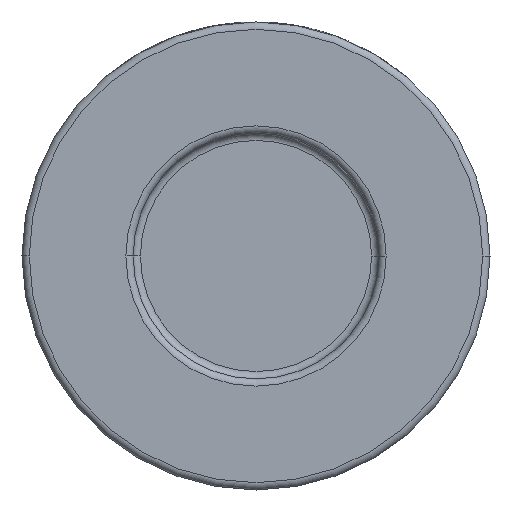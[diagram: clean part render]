
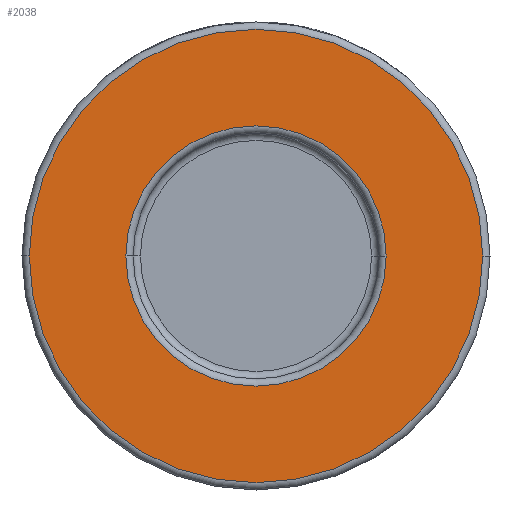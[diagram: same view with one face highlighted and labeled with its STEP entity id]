
A CAD part, front view. The second image highlights one B-rep face of the part: STEP entity #2038.
In plain terms, the highlighted planar face has unit normal (0, -1, 0).
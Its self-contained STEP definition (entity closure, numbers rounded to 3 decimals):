
#95 = ORIENTED_EDGE ( 'NONE', *, *, #4094, .T. ) ;
#152 = FACE_BOUND ( 'NONE', #2081, .T. ) ;
#167 = AXIS2_PLACEMENT_3D ( 'NONE', #3739, #580, #4096 ) ;
#219 = CARTESIAN_POINT ( 'NONE',  ( 32., -22., 0. ) ) ;
#566 = CARTESIAN_POINT ( 'NONE',  ( 0., -22., 0. ) ) ;
#580 = DIRECTION ( 'NONE',  ( 0., 1., 0. ) ) ;
#693 = ORIENTED_EDGE ( 'NONE', *, *, #3603, .T. ) ;
#827 = CIRCLE ( 'NONE', #906, 31. ) ;
#906 = AXIS2_PLACEMENT_3D ( 'NONE', #566, #3745, #1288 ) ;
#1288 = DIRECTION ( 'NONE',  ( 1., 0., 0. ) ) ;
#1324 = CARTESIAN_POINT ( 'NONE',  ( 31., -22., 0. ) ) ;
#1468 = EDGE_CURVE ( 'NONE', #3640, #3829, #3987, .T. ) ;
#1483 = AXIS2_PLACEMENT_3D ( 'NONE', #4089, #3662, #2262 ) ;
#1563 = AXIS2_PLACEMENT_3D ( 'NONE', #2729, #4139, #2110 ) ;
#1751 = VERTEX_POINT ( 'NONE', #3085 ) ;
#2022 = DIRECTION ( 'NONE',  ( 0., -1., 0. ) ) ;
#2038 = ADVANCED_FACE ( 'NONE', ( #152, #3008 ), #3031, .T. ) ;
#2081 = EDGE_LOOP ( 'NONE', ( #693, #2176 ) ) ;
#2110 = DIRECTION ( 'NONE',  ( 1., 0., 0. ) ) ;
#2176 = ORIENTED_EDGE ( 'NONE', *, *, #3439, .T. ) ;
#2262 = DIRECTION ( 'NONE',  ( 1., 0., 0. ) ) ;
#2453 = CARTESIAN_POINT ( 'NONE',  ( 17.8, -22., 0. ) ) ;
#2700 = CARTESIAN_POINT ( 'NONE',  ( -31., -22., 0. ) ) ;
#2729 = CARTESIAN_POINT ( 'NONE',  ( 0., -22., 0. ) ) ;
#2951 = AXIS2_PLACEMENT_3D ( 'NONE', #219, #2022, #4026 ) ;
#2959 = CIRCLE ( 'NONE', #167, 17.8 ) ;
#2965 = CIRCLE ( 'NONE', #1563, 17.8 ) ;
#3008 = FACE_OUTER_BOUND ( 'NONE', #3990, .T. ) ;
#3031 = PLANE ( 'NONE',  #2951 ) ;
#3085 = CARTESIAN_POINT ( 'NONE',  ( -17.8, -22., 0. ) ) ;
#3439 = EDGE_CURVE ( 'NONE', #1751, #4359, #2959, .T. ) ;
#3457 = ORIENTED_EDGE ( 'NONE', *, *, #1468, .T. ) ;
#3603 = EDGE_CURVE ( 'NONE', #4359, #1751, #2965, .T. ) ;
#3640 = VERTEX_POINT ( 'NONE', #1324 ) ;
#3662 = DIRECTION ( 'NONE',  ( 0., -1., 0. ) ) ;
#3739 = CARTESIAN_POINT ( 'NONE',  ( 0., -22., 0. ) ) ;
#3745 = DIRECTION ( 'NONE',  ( 0., -1., 0. ) ) ;
#3829 = VERTEX_POINT ( 'NONE', #2700 ) ;
#3987 = CIRCLE ( 'NONE', #1483, 31. ) ;
#3990 = EDGE_LOOP ( 'NONE', ( #3457, #95 ) ) ;
#4026 = DIRECTION ( 'NONE',  ( 1., 0., 0. ) ) ;
#4089 = CARTESIAN_POINT ( 'NONE',  ( 0., -22., 0. ) ) ;
#4094 = EDGE_CURVE ( 'NONE', #3829, #3640, #827, .T. ) ;
#4096 = DIRECTION ( 'NONE',  ( 1., 0., 0. ) ) ;
#4139 = DIRECTION ( 'NONE',  ( 0., 1., 0. ) ) ;
#4359 = VERTEX_POINT ( 'NONE', #2453 ) ;
